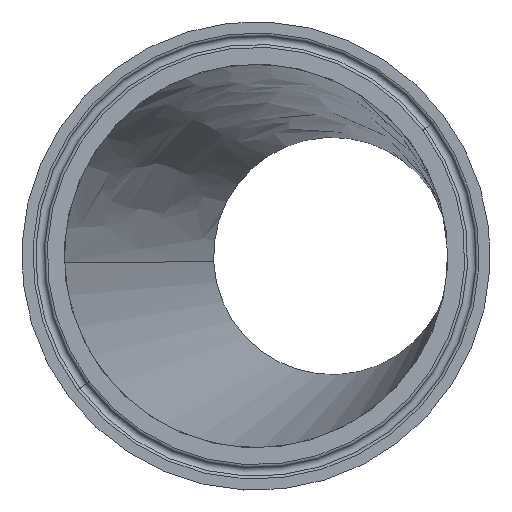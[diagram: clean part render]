
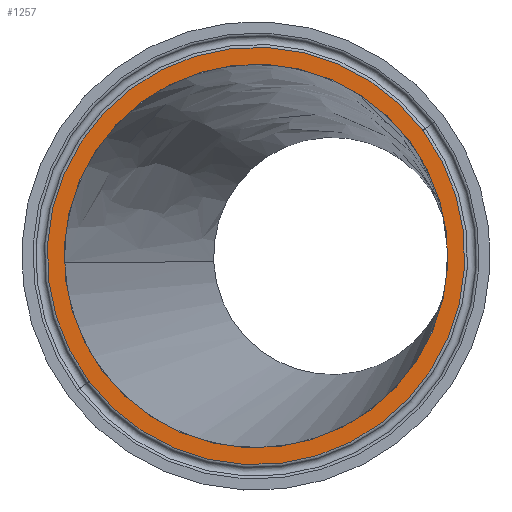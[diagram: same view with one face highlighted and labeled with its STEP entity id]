
A CAD part, left-side view. The second image highlights one B-rep face of the part: STEP entity #1257.
In plain terms, the highlighted planar face has unit normal (-1, 0, 0) as drawn and (0, -1, 0) by its records, which use the part's own axes.
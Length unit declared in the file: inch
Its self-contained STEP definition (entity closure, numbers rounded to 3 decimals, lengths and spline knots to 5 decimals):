
#56 = DIRECTION ( 'NONE',  ( 0., 0., -1. ) ) ;
#82 = FACE_OUTER_BOUND ( 'NONE', #309, .T. ) ;
#90 = AXIS2_PLACEMENT_3D ( 'NONE', #338, #981, #104 ) ;
#104 = DIRECTION ( 'NONE',  ( 0., 0., -1. ) ) ;
#115 = CIRCLE ( 'NONE', #90, 1.917 ) ;
#130 = DIRECTION ( 'NONE',  ( 0., 0., -1. ) ) ;
#142 = CARTESIAN_POINT ( 'NONE',  ( 0., 0., 0. ) ) ;
#174 = DIRECTION ( 'NONE',  ( 0., -1., 0. ) ) ;
#182 = CARTESIAN_POINT ( 'NONE',  ( 0., 0., -2.08592 ) ) ;
#258 = VERTEX_POINT ( 'NONE', #1276 ) ;
#309 = EDGE_LOOP ( 'NONE', ( #1133, #477 ) ) ;
#329 = EDGE_LOOP ( 'NONE', ( #814, #1241 ) ) ;
#338 = CARTESIAN_POINT ( 'NONE',  ( 0., 0., 0. ) ) ;
#403 = CARTESIAN_POINT ( 'NONE',  ( 0., 0., 0. ) ) ;
#477 = ORIENTED_EDGE ( 'NONE', *, *, #1343, .T. ) ;
#590 = EDGE_CURVE ( 'NONE', #642, #1355, #1157, .T. ) ;
#592 = PLANE ( 'NONE',  #1005 ) ;
#632 = DIRECTION ( 'NONE',  ( 0., 1., 0. ) ) ;
#642 = VERTEX_POINT ( 'NONE', #182 ) ;
#814 = ORIENTED_EDGE ( 'NONE', *, *, #1214, .F. ) ;
#823 = EDGE_CURVE ( 'NONE', #1108, #258, #1644, .T. ) ;
#847 = DIRECTION ( 'NONE',  ( 0., -1., 0. ) ) ;
#948 = FACE_BOUND ( 'NONE', #329, .T. ) ;
#981 = DIRECTION ( 'NONE',  ( 0., -1., 0. ) ) ;
#1002 = CARTESIAN_POINT ( 'NONE',  ( 0., 0., 2.08592 ) ) ;
#1005 = AXIS2_PLACEMENT_3D ( 'NONE', #142, #632, #1259 ) ;
#1088 = CARTESIAN_POINT ( 'NONE',  ( 0., 0., 0. ) ) ;
#1097 = DIRECTION ( 'NONE',  ( 0., 0., -1. ) ) ;
#1108 = VERTEX_POINT ( 'NONE', #1487 ) ;
#1133 = ORIENTED_EDGE ( 'NONE', *, *, #590, .T. ) ;
#1157 = CIRCLE ( 'NONE', #1434, 2.08592 ) ;
#1165 = CIRCLE ( 'NONE', #1221, 2.08592 ) ;
#1214 = EDGE_CURVE ( 'NONE', #258, #1108, #115, .T. ) ;
#1221 = AXIS2_PLACEMENT_3D ( 'NONE', #403, #1414, #130 ) ;
#1241 = ORIENTED_EDGE ( 'NONE', *, *, #823, .F. ) ;
#1257 = ADVANCED_FACE ( 'NONE', ( #948, #82 ), #592, .F. ) ;
#1259 = DIRECTION ( 'NONE',  ( 0., 0., 1. ) ) ;
#1276 = CARTESIAN_POINT ( 'NONE',  ( 0., 0., -1.917 ) ) ;
#1343 = EDGE_CURVE ( 'NONE', #1355, #642, #1165, .T. ) ;
#1355 = VERTEX_POINT ( 'NONE', #1002 ) ;
#1414 = DIRECTION ( 'NONE',  ( 0., -1., 0. ) ) ;
#1434 = AXIS2_PLACEMENT_3D ( 'NONE', #1446, #174, #56 ) ;
#1446 = CARTESIAN_POINT ( 'NONE',  ( 0., 0., 0. ) ) ;
#1487 = CARTESIAN_POINT ( 'NONE',  ( 0., 0., 1.917 ) ) ;
#1545 = AXIS2_PLACEMENT_3D ( 'NONE', #1088, #847, #1097 ) ;
#1644 = CIRCLE ( 'NONE', #1545, 1.917 ) ;
